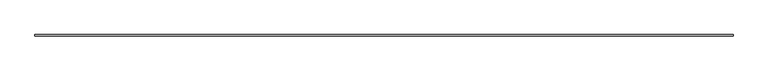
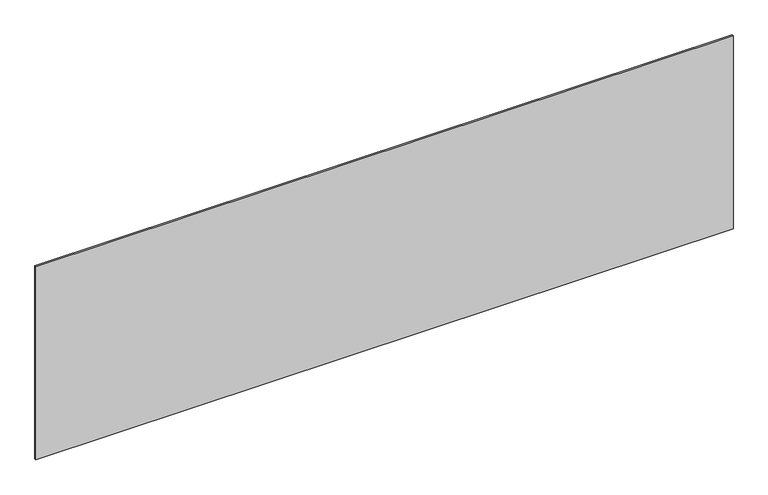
"""IFC4 building model written with IfcOpenShell, lengths in millimetres: plate geometry, システム パネル : 標準."""

from ifc_helpers import new_model, si_unit, origin, origin_with_axes, place, context, project, spatial, polyline, outline, extrude, source, transform, mapped, element, save


def plate_b12108fd(model_context):
    return source(origin(), model_context, "Body", "SweptSolid", [
        extrude(outline(polyline([(2264.1666667, -5.0), (-2264.1666667, -5.0), (-2264.1666667, 5.0), (2264.1666667, 5.0), (2264.1666667, -5.0)])), origin_with_axes(), (0.0, 0.0, 1.0), 1325.4316357),
    ])


if __name__ == "__main__":
    model = new_model("IFC4")
    model_context = context("Model", 3, world=origin())
    ifc_project = project(units=[si_unit("LENGTHUNIT", "METRE", prefix="MILLI")], contexts=[model_context])
    site = spatial("IfcSite", under=ifc_project)
    building = spatial("IfcBuilding", under=site)
    placement = place(None, origin())
    plate_shape = plate_b12108fd(model_context)
    element("IfcPlate", 1, ObjectType="システム パネル : 標準", at=placement, inside=building, context=model_context, shape_type="MappedRepresentation", body=[
        mapped(plate_shape, transform((0.0, 0.0, 0.0), x_axis=(1.0, 0.0, 0.0), y_axis=(0.0, 1.0, 0.0), z_axis=(0.0, 0.0, 1.0))),
    ])
    save(model, "model.ifc")
